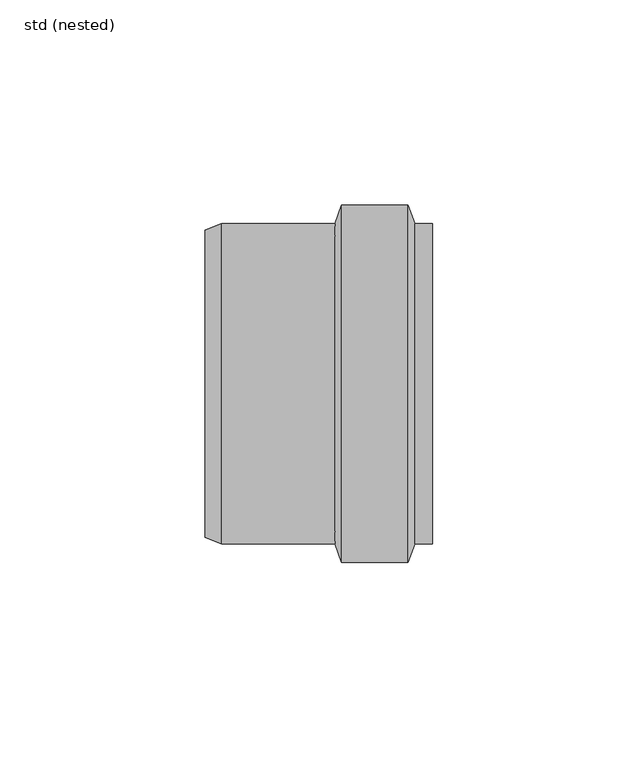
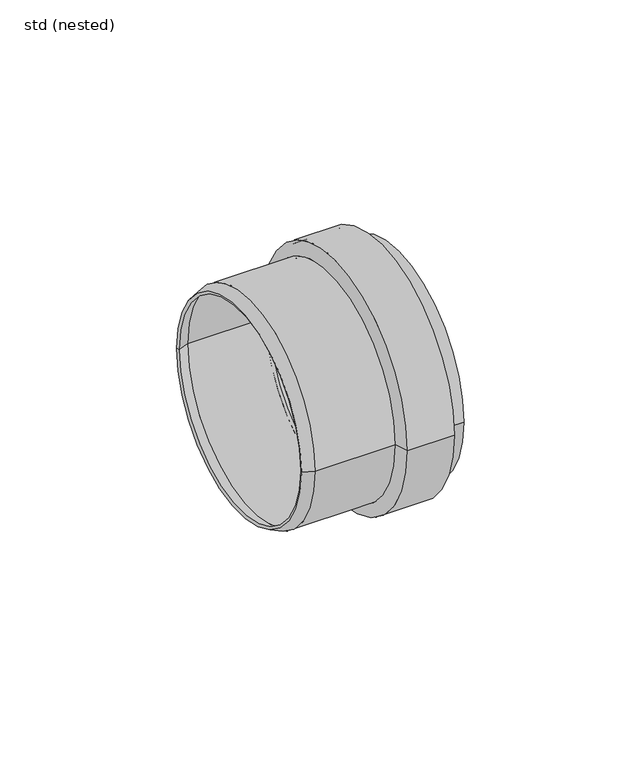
"""IFC4 building model written with IfcOpenShell, lengths in millimetres: pipe fitting geometry, ZZZ_do not use_PIF_ST_UN_ACO pipe socket_ACO : std (nested)."""

from ifc_helpers import new_model, si_unit, frame, origin, place, context, project, spatial, polyline, circle_curve, source, transform, mapped, element, save
from ifc_brep_helpers import plane_surface, cylinder_surface, revolved_surface, advanced_brep


def std_nested_4c693b00(model_context):
    return source(origin(), model_context, "Body", "AdvancedBrep", [
        advanced_brep(
        [(50.0, -38.0, 0.0), (50.0, 38.0, 0.0), (45.0, 38.0, 0.0), (45.0, -38.0, 0.0), (50.0, -39.0, 0.0), (50.0, 39.0, 0.0), (45.7057737, -39.0, 0.0), (45.7057737, 39.0, 0.0), (44.1057737, -43.5, 0.0), (44.1057737, 43.5, 0.0), (27.8942263, -43.5, 0.0), (27.8942263, 43.5, 0.0), (26.2942263, -39.0, 0.0), (26.2942263, 39.0, 0.0), (-1.3902264, -39.0, 0.0), (-1.3902264, 39.0, 0.0), (-5.3671665, -37.4301552, 0.0), (-5.3671665, 37.4301552, 0.0), (-5.0, -36.5, 0.0), (-5.0, 36.5, 0.0), (-1.2, -38.0, 0.0), (-1.2, 38.0, 0.0), (27.0, -38.0, 0.0), (27.0, 38.0, 0.0), (28.6, -42.5, 0.0), (28.6, 42.5, 0.0), (43.4, -42.5, 0.0), (43.4, 42.5, 0.0)],
        [
            (0, 1, circle_curve(frame((50.0, 0.0, 0.0), z_axis=(1.0, 0.0, 0.0), x_axis=(0.0, 1.0, 0.0)), 38.0)),
            (1, 2),
            (2, 3, circle_curve(frame((45.0, 0.0, 0.0), z_axis=(-1.0, 0.0, 0.0), x_axis=(0.0, 1.0, 0.0)), 38.0)),
            (3, 0),
            (1, 0, circle_curve(frame((50.0, 0.0, 0.0), z_axis=(1.0, 0.0, 0.0), x_axis=(0.0, 1.0, 0.0)), 38.0)),
            (3, 2, circle_curve(frame((45.0, 0.0, 0.0), z_axis=(-1.0, 0.0, 0.0), x_axis=(0.0, 1.0, 0.0)), 38.0)),
            (4, 5, circle_curve(frame((50.0, 0.0, 0.0), z_axis=(1.0, 0.0, 0.0), x_axis=(0.0, 1.0, 0.0)), 39.0)),
            (5, 1),
            (0, 4),
            (5, 4, circle_curve(frame((50.0, 0.0, 0.0), z_axis=(1.0, 0.0, 0.0), x_axis=(0.0, 1.0, 0.0)), 39.0)),
            (6, 7, circle_curve(frame((45.7057737, 0.0, 0.0), z_axis=(1.0, 0.0, 0.0), x_axis=(0.0, 1.0, 0.0)), 39.0)),
            (7, 5),
            (4, 6),
            (7, 6, circle_curve(frame((45.7057737, 0.0, 0.0), z_axis=(1.0, 0.0, 0.0), x_axis=(0.0, 1.0, 0.0)), 39.0)),
            (8, 9, circle_curve(frame((44.1057737, 0.0, 0.0), z_axis=(1.0, 0.0, 0.0), x_axis=(0.0, 1.0, 0.0)), 43.5)),
            (9, 7),
            (6, 8),
            (9, 8, circle_curve(frame((44.1057737, 0.0, 0.0), z_axis=(1.0, 0.0, 0.0), x_axis=(0.0, 1.0, 0.0)), 43.5)),
            (10, 11, circle_curve(frame((27.8942263, 0.0, 0.0), z_axis=(1.0, 0.0, 0.0), x_axis=(0.0, 1.0, 0.0)), 43.5)),
            (11, 9),
            (8, 10),
            (11, 10, circle_curve(frame((27.8942263, 0.0, 0.0), z_axis=(1.0, 0.0, 0.0), x_axis=(0.0, 1.0, 0.0)), 43.5)),
            (12, 13, circle_curve(frame((26.2942263, 0.0, 0.0), z_axis=(1.0, 0.0, 0.0), x_axis=(0.0, 1.0, 0.0)), 39.0)),
            (13, 11),
            (10, 12),
            (13, 12, circle_curve(frame((26.2942263, 0.0, 0.0), z_axis=(1.0, 0.0, 0.0), x_axis=(0.0, 1.0, 0.0)), 39.0)),
            (14, 15, circle_curve(frame((-1.3902264, 0.0, 0.0), z_axis=(1.0, 0.0, 0.0), x_axis=(0.0, 1.0, 0.0)), 39.0)),
            (15, 13),
            (12, 14),
            (15, 14, circle_curve(frame((-1.3902264, 0.0, 0.0), z_axis=(1.0, 0.0, 0.0), x_axis=(0.0, 1.0, 0.0)), 39.0)),
            (16, 17, circle_curve(frame((-5.3671665, 0.0, 0.0), z_axis=(1.0, 0.0, 0.0), x_axis=(0.0, 1.0, 0.0)), 37.4301552)),
            (17, 15),
            (14, 16),
            (17, 16, circle_curve(frame((-5.3671665, 0.0, 0.0), z_axis=(1.0, 0.0, 0.0), x_axis=(0.0, 1.0, 0.0)), 37.4301552)),
            (18, 19, circle_curve(frame((-5.0, 0.0, 0.0), z_axis=(1.0, 0.0, 0.0), x_axis=(0.0, 1.0, 0.0)), 36.5)),
            (19, 17),
            (16, 18),
            (19, 18, circle_curve(frame((-5.0, 0.0, 0.0), z_axis=(1.0, 0.0, 0.0), x_axis=(0.0, 1.0, 0.0)), 36.5)),
            (20, 21, circle_curve(frame((-1.2, 0.0, 0.0), z_axis=(1.0, 0.0, 0.0), x_axis=(0.0, 1.0, 0.0)), 38.0)),
            (21, 19),
            (18, 20),
            (21, 20, circle_curve(frame((-1.2, 0.0, 0.0), z_axis=(1.0, 0.0, 0.0), x_axis=(0.0, 1.0, 0.0)), 38.0)),
            (22, 23, circle_curve(frame((27.0, 0.0, 0.0), z_axis=(1.0, 0.0, 0.0), x_axis=(0.0, 1.0, 0.0)), 38.0)),
            (23, 21),
            (20, 22),
            (23, 22, circle_curve(frame((27.0, 0.0, 0.0), z_axis=(1.0, 0.0, 0.0), x_axis=(0.0, 1.0, 0.0)), 38.0)),
            (24, 25, circle_curve(frame((28.6, 0.0, 0.0), z_axis=(1.0, 0.0, 0.0), x_axis=(0.0, 1.0, 0.0)), 42.5)),
            (25, 23),
            (22, 24),
            (25, 24, circle_curve(frame((28.6, 0.0, 0.0), z_axis=(1.0, 0.0, 0.0), x_axis=(0.0, 1.0, 0.0)), 42.5)),
            (26, 27, circle_curve(frame((43.4, 0.0, 0.0), z_axis=(1.0, 0.0, 0.0), x_axis=(0.0, 1.0, 0.0)), 42.5)),
            (27, 25),
            (24, 26),
            (27, 26, circle_curve(frame((43.4, 0.0, 0.0), z_axis=(1.0, 0.0, 0.0), x_axis=(0.0, 1.0, 0.0)), 42.5)),
            (2, 27),
            (26, 3),
        ],
        [
            revolved_surface(polyline([(45.0, 38.0, 0.0), (50.0, 38.0, 0.0)]), (-17.468946, 0.0, 0.0), (-1.0, 0.0, 0.0)),
            plane_surface(frame((50.0, 0.0, 0.0), z_axis=(1.0, 0.0, 0.0), x_axis=(0.0, 1.0, 0.0))),
            cylinder_surface(frame((-17.468946, 0.0, 0.0), z_axis=(-1.0, 0.0, 0.0), x_axis=(0.0, 1.0, 0.0)), 39.0),
            revolved_surface(polyline([(45.7057737, 39.0, 0.0), (44.1057737, 43.5, 0.0)]), (-17.468946, 0.0, 0.0), (-1.0, 0.0, 0.0)),
            cylinder_surface(frame((-17.468946, 0.0, 0.0), z_axis=(-1.0, 0.0, 0.0), x_axis=(0.0, 1.0, 0.0)), 43.5),
            revolved_surface(polyline([(27.8942263, 43.5, 0.0), (26.2942263, 39.0, 0.0)]), (-17.468946, 0.0, 0.0), (-1.0, 0.0, 0.0)),
            revolved_surface(polyline([(-1.3902264, 39.0, 0.0), (-5.3671665, 37.4301552, 0.0)]), (-17.468946, 0.0, 0.0), (-1.0, 0.0, 0.0)),
            revolved_surface(polyline([(-5.3671665, 37.4301552, 0.0), (-5.0, 36.5, 0.0)]), (-17.468946, 0.0, 0.0), (-1.0, 0.0, 0.0)),
            revolved_surface(polyline([(-5.0, 36.5, 0.0), (-1.2, 38.0, 0.0)]), (-17.468946, 0.0, 0.0), (-1.0, 0.0, 0.0)),
            revolved_surface(polyline([(-1.1999999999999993, 38.0, 0.0), (27.000000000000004, 38.0, 0.0)]), (-17.468946, 0.0, 0.0), (-1.0, 0.0, 0.0)),
            revolved_surface(polyline([(27.0, 38.0, 0.0), (28.6, 42.5, 0.0)]), (-17.468946, 0.0, 0.0), (-1.0, 0.0, 0.0)),
            revolved_surface(polyline([(28.599999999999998, 42.5, 0.0), (43.39999999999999, 42.5, 0.0)]), (-17.468946, 0.0, 0.0), (-1.0, 0.0, 0.0)),
            revolved_surface(polyline([(43.4, 42.5, 0.0), (45.0, 38.0, 0.0)]), (-17.468946, 0.0, 0.0), (-1.0, 0.0, 0.0)),
        ],
        [
            (0, [[1, 2, 3, 4]]),
            (0, [[5, -4, 6, -2]]),
            (1, [[7, 8, -1, 9]]),
            (1, [[10, -9, -5, -8]]),
            (2, [[11, 12, -7, 13]]),
            (2, [[14, -13, -10, -12]]),
            (3, [[15, 16, -11, 17]]),
            (3, [[18, -17, -14, -16]]),
            (4, [[19, 20, -15, 21]]),
            (4, [[22, -21, -18, -20]]),
            (5, [[23, 24, -19, 25]]),
            (5, [[26, -25, -22, -24]]),
            (2, [[27, 28, -23, 29]]),
            (2, [[30, -29, -26, -28]]),
            (6, [[31, 32, -27, 33]]),
            (6, [[34, -33, -30, -32]]),
            (7, [[35, 36, -31, 37]]),
            (7, [[38, -37, -34, -36]]),
            (8, [[39, 40, -35, 41]]),
            (8, [[42, -41, -38, -40]]),
            (9, [[43, 44, -39, 45]]),
            (9, [[46, -45, -42, -44]]),
            (10, [[47, 48, -43, 49]]),
            (10, [[50, -49, -46, -48]]),
            (11, [[51, 52, -47, 53]]),
            (11, [[54, -53, -50, -52]]),
            (12, [[-3, 55, -51, 56]]),
            (12, [[-6, -56, -54, -55]]),
        ],
    ),
    ])


if __name__ == "__main__":
    model = new_model("IFC4")
    model_context = context("Model", 3, world=origin())
    ifc_project = project(units=[si_unit("LENGTHUNIT", "METRE", prefix="MILLI")], contexts=[model_context])
    site = spatial("IfcSite", under=ifc_project)
    building = spatial("IfcBuilding", under=site)
    placement = place(None, origin())
    std_nested_shape = std_nested_4c693b00(model_context)
    element("IfcPipeFitting", 1, ObjectType="ZZZ_do not use_PIF_ST_UN_ACO pipe socket_ACO : std (nested)", at=placement, inside=building, context=model_context, shape_type="MappedRepresentation", body=[
        mapped(std_nested_shape, transform((0.0, 0.0, 0.0), x_axis=(1.0, 0.0, 0.0), y_axis=(0.0, 1.0, 0.0), z_axis=(0.0, 0.0, 1.0))),
    ])
    save(model, "model.ifc")
